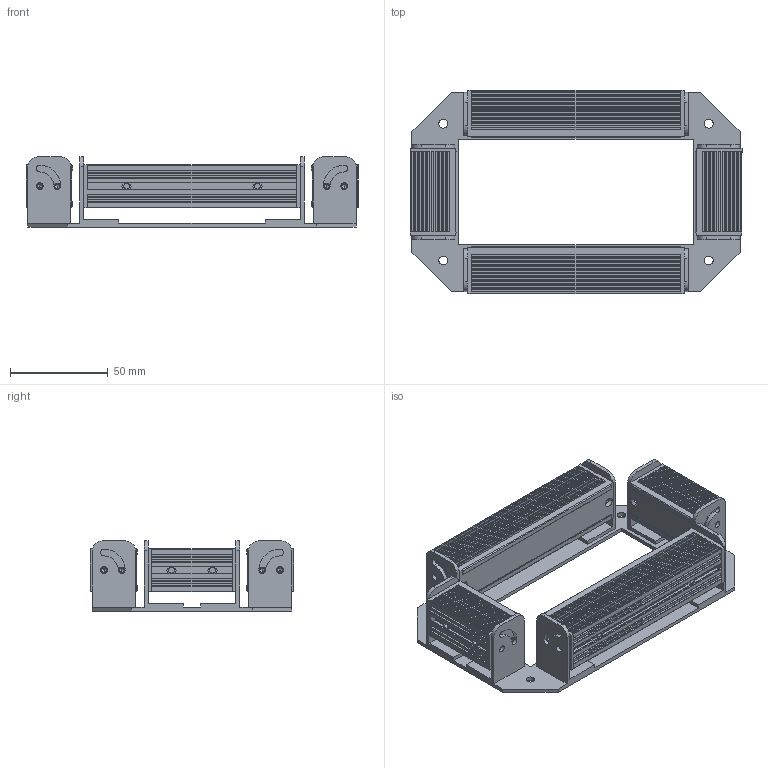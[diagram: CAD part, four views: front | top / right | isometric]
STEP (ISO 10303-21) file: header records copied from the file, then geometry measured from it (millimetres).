
FILE_DESCRIPTION((''),'2;1');
FILE_NAME('MSL-102-102_ASM','2020-03-26T',('ASUS'),(''),'PRO/ENGINEER BY PARAMETRIC TECHNOLOGY CORPORATION, 2008380','PRO/ENGINEER BY PARAMETRIC TECHNOLOGY CORPORATION, 2008380','');
FILE_SCHEMA(('CONFIG_CONTROL_DESIGN'));
Length unit declared in the file: millimetre
Products named in the file (4): PRT0002; PRT0003; PRT0004; MSL-102-102_ASM
Assembly tree (5 placements, depth 2):
  MSL-102-102_ASM
    PRT0002
    PRT0003  x2
    PRT0004  x2
Bounding box: 170.04 x 104.05 x 36 mm (x, y, z)
Volume: 180776.2 mm3; surface area: 94198.3 mm2
Topology: 5 solids, 21 shells, 1232 faces, 3318 edges, 2200 vertices
Faces by surface type: plane 736, cylinder 416, cone 80
Entity records: 21951 total; most frequent: CARTESIAN_POINT 4119, DIRECTION 3705, ORIENTED_EDGE 3650, EDGE_CURVE 1841, VECTOR 1273, LINE 1273, VERTEX_POINT 1232, AXIS2_PLACEMENT_3D 1216
